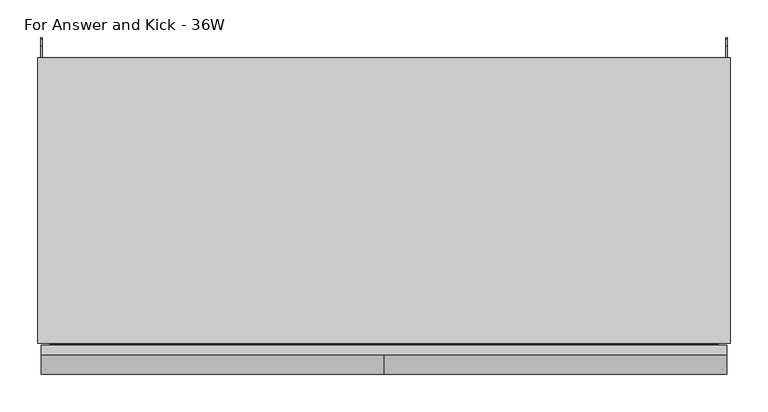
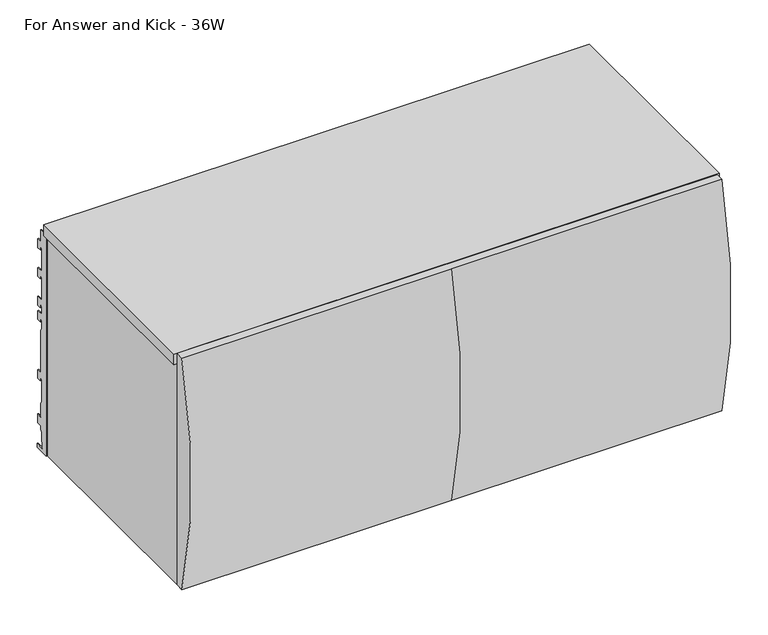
"""IFC4 building model written with IfcOpenShell, lengths in millimetres: furniture geometry, Steelcase - Universal Storage - Over the Case Bin - Radius Front : For Answer and Kick - 36W."""

from ifc_helpers import new_model, si_unit, frame, origin, place, context, project, spatial, polyline, circle_curve, outline, extrude, source, transform, mapped, element, save
from ifc_brep_helpers import plane_surface, cylinder_surface, advanced_brep


def for_answer_and_kick_36w_ff3bda4e(model_context):
    return source(origin(), model_context, "Body", "SolidModel", [
        extrude(outline(polyline([(0.0, 1657.096), (15.428165, 1657.096), (15.428165, 1635.9725192), (24.6737648, 1635.9725192), (24.6737648, 1620.2499324), (17.7141651, 1620.2499324), (17.7141651, 1627.4034202), (15.428165, 1627.4034202), (13.3707653, 1623.8398995), (13.3707653, 1584.7332049), (24.4959651, 1584.7332049), (24.4959651, 1569.0106181), (17.7141651, 1569.0106181), (17.7141651, 1576.1734076), (15.428165, 1576.1734076), (13.3707653, 1572.6099624), (13.3707653, 1533.4938907), (24.6737648, 1533.4938907), (24.6737648, 1517.7713038), (17.5768, 1517.7713038), (17.5768, 1524.9340934), (15.4248855, 1524.9340934), (13.3349998, 1521.3219111), (13.3349998, 1508.4166423), (24.6737648, 1508.4166423), (24.6737648, 1492.6940555), (17.5768, 1492.6940555), (17.5768, 1499.856845), (15.4205129, 1499.856845), (13.3933344, 1496.3530466), (13.3933344, 1483.6530466), (15.428165, 1479.2893385), (15.428165, 1403.8551467), (24.6737648, 1403.8551467), (24.6737648, 1388.1325599), (17.7141651, 1388.1325599), (17.7141651, 1395.2982562), (15.428165, 1395.2982562), (13.3306079, 1391.6651808), (13.3306079, 1353.5651808), (15.428165, 1349.9321054), (15.428165, 1325.1000701), (24.6737648, 1325.1000701), (24.6737648, 1309.3774833), (17.7141651, 1309.3774833), (17.7141651, 1316.5328605), (15.428165, 1316.5328605), (15.428165, 1303.5355433), (13.2046809, 1299.684356), (13.2046809, 1282.9679719), (11.2879653, 1282.9679719), (11.2879653, 1271.9303504), (26.4009645, 1271.9303504), (26.4009645, 1265.428), (0.0, 1265.428), (0.0, 1657.096)])), frame((908.8882, 0.0, 0.0), z_axis=(1.0, 0.0, 0.0), x_axis=(0.0, 1.0, 0.0)), (0.0, 0.0, 1.0), 1.905),
        extrude(outline(polyline([(0.0, 1657.096), (15.428165, 1657.096), (15.428165, 1635.9725192), (24.6737648, 1635.9725192), (24.6737648, 1620.2499324), (17.7141651, 1620.2499324), (17.7141651, 1627.4034202), (15.428165, 1627.4034202), (13.3707653, 1623.8398995), (13.3707653, 1584.7332049), (24.4959651, 1584.7332049), (24.4959651, 1569.0106181), (17.7141651, 1569.0106181), (17.7141651, 1576.1734076), (15.428165, 1576.1734076), (13.3707653, 1572.6099624), (13.3707653, 1533.4938907), (24.6737648, 1533.4938907), (24.6737648, 1517.7713038), (17.5768, 1517.7713038), (17.5768, 1524.9340934), (15.4248855, 1524.9340934), (13.3349998, 1521.3219111), (13.3349998, 1508.4166423), (24.6737648, 1508.4166423), (24.6737648, 1492.6940555), (17.5768, 1492.6940555), (17.5768, 1499.856845), (15.4205129, 1499.856845), (13.3933344, 1496.3530466), (13.3933344, 1483.6530466), (15.428165, 1479.2893385), (15.428165, 1403.8551467), (24.6737648, 1403.8551467), (24.6737648, 1388.1325599), (17.7141651, 1388.1325599), (17.7141651, 1395.2982562), (15.428165, 1395.2982562), (13.3306079, 1391.6651808), (13.3306079, 1353.5651808), (15.428165, 1349.9321054), (15.428165, 1325.1000701), (24.6737648, 1325.1000701), (24.6737648, 1309.3774833), (17.7141651, 1309.3774833), (17.7141651, 1316.5328605), (15.428165, 1316.5328605), (15.428165, 1303.5355433), (13.2046809, 1299.684356), (13.2046809, 1282.9679719), (11.2879653, 1282.9679719), (11.2879653, 1271.9303504), (26.4009645, 1271.9303504), (26.4009645, 1265.428), (0.0, 1265.428), (0.0, 1657.096)])), frame((3.6068, 0.0, 0.0), z_axis=(1.0, 0.0, 0.0), x_axis=(0.0, 1.0, 0.0)), (0.0, 0.0, 1.0), 1.905),
        advanced_brep(
        [(909.9703, -393.0769518, 1677.2612846), (909.9703, -393.0769518, 1266.8226746), (909.9703, -379.476, 1266.8226746), (909.9703, -379.476, 1677.2612846), (457.2, -393.0769518, 1677.2612846), (457.2, -393.0769518, 1266.8226746), (4.4448587, -393.0769518, 1266.8226746), (4.4448587, -379.476, 1266.8226746), (4.4448587, -379.476, 1677.2612846), (4.4448587, -393.0769518, 1677.2612846)],
        [
            (0, 1, circle_curve(frame((909.9703, 352.6331971, 1472.0419796), z_axis=(1.0, 0.0, 0.0), x_axis=(0.0, 1.0, 0.0)), 773.4329895)),
            (1, 2),
            (2, 3),
            (3, 0),
            (0, 4),
            (4, 5, circle_curve(frame((457.2, 352.6331971, 1472.0419796), z_axis=(1.0, 0.0, 0.0), x_axis=(0.0, 1.0, 0.0)), 773.4329895)),
            (5, 1),
            (5, 6),
            (6, 7),
            (7, 2),
            (7, 8),
            (8, 3),
            (8, 9),
            (9, 4),
            (6, 9, circle_curve(frame((4.4448587, 352.6331971, 1472.0419796), z_axis=(-1.0, 0.0, 0.0), x_axis=(0.0, 1.0, 0.0)), 773.4329895)),
        ],
        [
            plane_surface(frame((909.9703, 1126.0661866, 1472.0419796), z_axis=(1.0, 0.0, 0.0), x_axis=(0.0, 0.0, 1.0))),
            cylinder_surface(frame((457.2, 352.6331971, 1472.0419796), z_axis=(1.0, 0.0, 0.0), x_axis=(0.0, 1.0, 0.0)), 773.4329895),
            plane_surface(frame((909.9703, -393.0769518, 1266.8226746), z_axis=(0.0, 0.0, -1.0), x_axis=(-1.0, 0.0, 0.0))),
            plane_surface(frame((909.9703, -379.476, 1266.8226746), z_axis=(0.0, 1.0, 0.0), x_axis=(-1.0, 0.0, 0.0))),
            plane_surface(frame((909.9703, -379.476, 1677.2612846), z_axis=(0.0, 0.0, 1.0), x_axis=(-1.0, 0.0, 0.0))),
            plane_surface(frame((4.4448587, 1126.0661866, 1472.0419796), z_axis=(-1.0, 0.0, 0.0), x_axis=(0.0, 0.0, -1.0))),
            cylinder_surface(frame((4.4448587, 352.6331971, 1472.0419796), z_axis=(1.0, 0.0, 0.0), x_axis=(0.0, 1.0, 0.0)), 773.4329895),
        ],
        [
            (0, [[1, 2, 3, 4]]),
            (1, [[-1, 5, 6, 7]]),
            (2, [[-2, -7, 8, 9, 10]]),
            (3, [[-3, -10, 11, 12]]),
            (4, [[-4, -12, 13, 14, -5]]),
            (5, [[-13, -11, -9, 15]]),
            (6, [[-15, -8, -6, -14]]),
        ],
    ),
        extrude(outline(polyline([(914.4, -377.213238), (0.0, -377.213238), (0.0, 0.0), (914.4, 0.0), (914.4, -377.213238)])), frame((0.0, 0.0, 1657.35), z_axis=(0.0, 0.0, 1.0), x_axis=(1.0, 0.0, 0.0)), (0.0, 0.0, 1.0), 19.05),
        extrude(outline(polyline([(15.875, -377.213238), (5.5118, -377.213238), (5.5118, 0.0), (15.875, 0.0), (15.875, -377.213238)])), frame((0.0, 0.0, 1265.428), z_axis=(0.0, 0.0, 1.0), x_axis=(1.0, 0.0, 0.0)), (0.0, 0.0, 1.0), 391.6679457),
        extrude(outline(polyline([(913.2568665, -377.213238), (898.525, -377.213238), (898.525, 0.0), (913.2568665, 0.0), (913.2568665, -377.213238)])), frame((0.0, 0.0, 1265.428), z_axis=(0.0, 0.0, 1.0), x_axis=(1.0, 0.0, 0.0)), (0.0, 0.0, 1.0), 391.6679457),
        extrude(outline(polyline([(-35.4584098, 1372.819257), (-27.0763996, 1372.819257), (-27.0763996, 1360.1191601), (-33.4264117, 1360.1191601), (-33.4264117, 1323.1622589), (-27.0763996, 1323.1622589), (-27.0763996, 1265.428), (-35.4584098, 1265.428), (-35.4584098, 1293.054213), (-46.1263996, 1293.054213), (-46.1263996, 1268.1875622), (-59.9694137, 1268.1875622), (-59.9694137, 1294.8575912), (-332.8542818, 1294.8575912), (-332.8542818, 1268.1875622), (-377.3042823, 1268.1875622), (-377.3042823, 1310.7072052), (-35.4584098, 1310.7072052), (-35.4584098, 1372.819257)])), frame((15.875, 0.0, 0.0), z_axis=(1.0, 0.0, 0.0), x_axis=(0.0, 1.0, 0.0)), (0.0, 0.0, 1.0), 882.65),
    ])


if __name__ == "__main__":
    model = new_model("IFC4")
    model_context = context("Model", 3, world=origin())
    ifc_project = project(units=[si_unit("LENGTHUNIT", "METRE", prefix="MILLI")], contexts=[model_context])
    site = spatial("IfcSite", under=ifc_project)
    building = spatial("IfcBuilding", under=site)
    placement = place(None, origin())
    for_answer_and_kick_36w_shape = for_answer_and_kick_36w_ff3bda4e(model_context)
    element("IfcFurniture", 1, ObjectType="Steelcase - Universal Storage - Over the Case Bin - Radius Front : For Answer and Kick - 36W", at=placement, inside=building, context=model_context, shape_type="MappedRepresentation", body=[
        mapped(for_answer_and_kick_36w_shape, transform((0.0, 0.0, 0.0), x_axis=(1.0, 0.0, 0.0), y_axis=(0.0, 1.0, 0.0), z_axis=(0.0, 0.0, 1.0))),
    ])
    save(model, "model.ifc")
